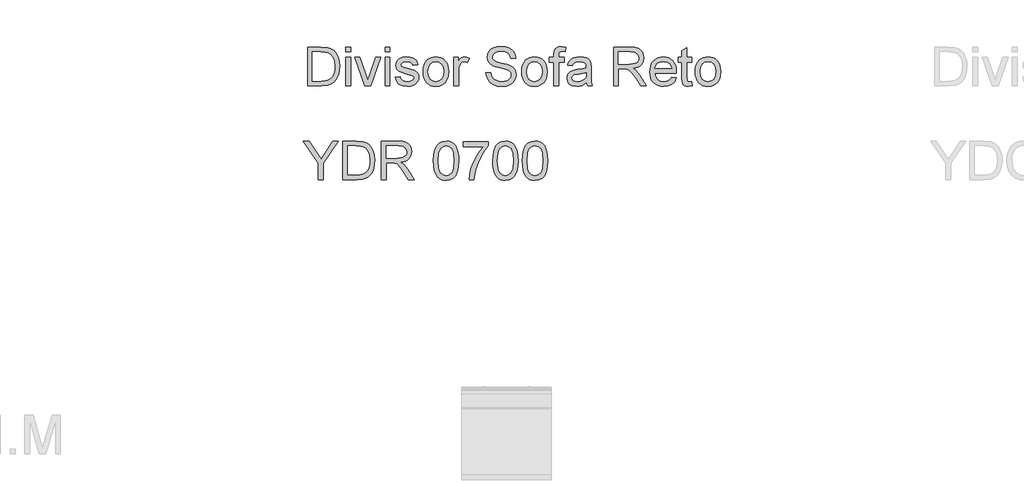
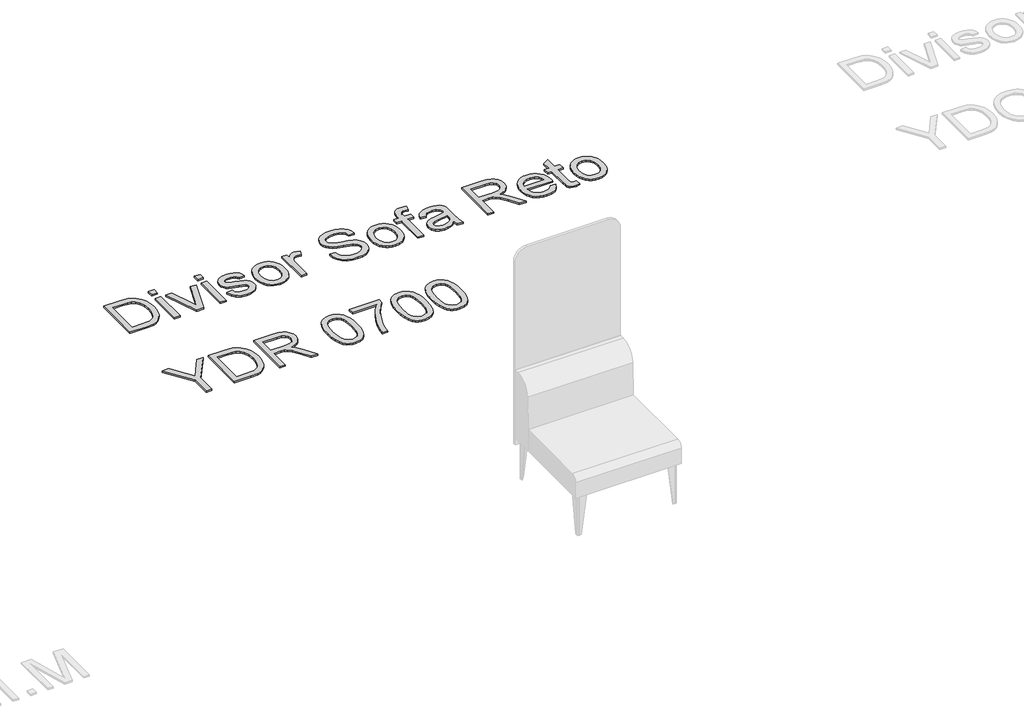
# One storey, part 5 of 26: 1 proxy.
"""IFC4 building model written with IfcOpenShell, lengths in millimetres."""

from ifc_helpers import new_model, si_unit, origin, origin_with_axes, place, context, project, spatial, polyline, outline, extrude, element, save

model = new_model("IFC4")

# Units and contexts
model_context = context("Model", 3, world=origin())
ifc_project = project(units=[si_unit("LENGTHUNIT", "METRE", prefix="MILLI")], contexts=[model_context])

# Site, building, storey
site = spatial("IfcSite", under=ifc_project)
building = spatial("IfcBuilding", under=site)
storey = spatial("IfcBuildingStorey", under=building, Name="Marelli - Linha YOUNG - Planta Baixa", Elevation=0.0)

# Proxy
placement = place(None, origin())
element("IfcBuildingElementProxy", 1, Name="300mm Arial", ObjectType="300mm Arial", at=placement, inside=storey, context=model_context, shape_type="SweptSolid", body=[
    extrude(outline(polyline([(-15696.7547836, -19914.6418665), (-15696.7547836, -19613.2729361), (-15592.7913318, -19613.2729361), (-15539.0069841, -19617.6139436), (-15514.9842898, -19625.983259), (-15494.7139919, -19639.1718285), (-15473.8734769, -19662.127665), (-15459.0294384, -19690.6753079), (-15450.1450882, -19724.262934), (-15447.1836381, -19762.3387205), (-15449.188595, -19794.684745), (-15455.2034656, -19823.1496143), (-15464.3637273, -19847.3838408), (-15475.8048573, -19867.0379364), (-15488.9750328, -19882.5533595), (-15503.3224306, -19894.3715686), (-15519.7943469, -19903.1363571), (-15539.3380779, -19909.4915186), (-15587.7881367, -19914.6418665), (-15696.7547836, -19914.6418665)]), holes=[polyline([(-15659.0836673, -19876.9707502), (-15592.4234498, -19876.9707502), (-15564.8506943, -19875.6095868), (-15543.9366028, -19871.5260967), (-15528.1544653, -19864.9594031), (-15515.9775712, -19856.1486293), (-15502.8901692, -19839.8422599), (-15493.0585229, -19818.7350304), (-15486.9056965, -19792.7349704), (-15484.8547544, -19761.7501093), (-15488.8738652, -19720.6944787), (-15500.9311976, -19690.3810023), (-15518.7458832, -19669.5588813), (-15540.0370537, -19656.9773171), (-15561.7053032, -19652.4523686), (-15593.4535194, -19650.9440524), (-15659.0836673, -19650.9440524), (-15659.0836673, -19876.9707502)])]), origin_with_axes(), (0.0, 0.0, 1.0), 10.0),
    extrude(outline(polyline([(-15400.0947427, -19650.9440524), (-15400.0947427, -19613.2729361), (-15362.4236264, -19613.2729361), (-15362.4236264, -19650.9440524), (-15400.0947427, -19650.9440524)])), origin_with_axes(), (0.0, 0.0, 1.0), 10.0),
    extrude(outline(polyline([(-15400.0947427, -19914.6418665), (-15400.0947427, -19693.3240582), (-15362.4236264, -19693.3240582), (-15362.4236264, -19914.6418665), (-15400.0947427, -19914.6418665)])), origin_with_axes(), (0.0, 0.0, 1.0), 10.0),
    extrude(outline(polyline([(-15251.6175695, -19914.6418665), (-15329.4613997, -19693.3240582), (-15289.5829914, -19693.3240582), (-15242.4205196, -19825.9087293), (-15228.2202746, -19870.4960271), (-15214.3143352, -19828.4103269), (-15166.8575578, -19693.3240582), (-15126.9791495, -19693.3240582), (-15203.8664865, -19914.6418665), (-15251.6175695, -19914.6418665)])), origin_with_axes(), (0.0, 0.0, 1.0), 10.0),
    extrude(outline(polyline([(-15094.0169227, -19914.6418665), (-15094.0169227, -19693.3240582), (-15056.3458064, -19693.3240582), (-15056.3458064, -19914.6418665), (-15094.0169227, -19914.6418665)])), origin_with_axes(), (0.0, 0.0, 1.0), 10.0),
    extrude(outline(polyline([(-15094.0169227, -19650.9440524), (-15094.0169227, -19613.2729361), (-15056.3458064, -19613.2729361), (-15056.3458064, -19650.9440524), (-15094.0169227, -19650.9440524)])), origin_with_axes(), (0.0, 0.0, 1.0), 10.0),
    extrude(outline(polyline([(-15013.9658006, -19848.717413), (-14976.2946843, -19844.0085235), (-14970.3533901, -19860.1217548), (-14958.8570777, -19871.9675551), (-14941.7321708, -19879.2516186), (-14918.905093, -19881.6796398), (-14896.3539267, -19879.4539537), (-14880.4982127, -19872.7768955), (-14871.1172219, -19863.101599), (-14867.9902249, -19851.8811982), (-14871.135616, -19842.2794781), (-14880.5717891, -19834.9586264), (-14919.3465514, -19824.2164721), (-14976.0739551, -19805.7855842), (-14990.43055, -19796.5241549), (-15000.8324134, -19784.2644874), (-15007.1507866, -19769.7883309), (-15009.2569111, -19753.8774346), (-15007.5646539, -19739.2817165), (-15002.4878823, -19725.8080384), (-14994.486449, -19713.9898293), (-14984.0202062, -19704.3605181), (-14960.0710883, -19693.2136936), (-14927.6606845, -19688.6151687), (-14903.1413495, -19690.4637757), (-14881.8225879, -19696.0095968), (-14864.679287, -19704.710006), (-14852.6863339, -19716.0223773), (-14844.7400828, -19730.7836424), (-14839.7368877, -19749.8307327), (-14877.408004, -19754.5396222), (-14882.1628788, -19742.6846249), (-14891.5714608, -19733.7542895), (-14905.7257206, -19728.1532861), (-14924.7176286, -19726.286285), (-14946.3490899, -19728.0705127), (-14960.7700641, -19733.4231957), (-14968.8818621, -19741.1487176), (-14971.5857948, -19750.0514619), (-14967.0976344, -19761.0143453), (-14953.0445422, -19769.3284784), (-14920.5973502, -19777.3483059), (-14865.3046863, -19795.0802181), (-14850.6997711, -19803.5598981), (-14839.6265231, -19815.166575), (-14832.6459622, -19829.9370371), (-14830.3191086, -19847.9080726), (-14833.0506324, -19866.4861134), (-14841.2452039, -19883.9605081), (-14854.5901232, -19898.9608965), (-14872.7726908, -19910.116918), (-14894.735246, -19917.0422966), (-14919.4201278, -19919.3507561), (-14957.4039438, -19914.8993839), (-14985.1238522, -19901.5452675), (-15003.6283165, -19879.4355596), (-15013.9658006, -19848.717413)])), origin_with_axes(), (0.0, 0.0, 1.0), 10.0),
    extrude(outline(polyline([(-14797.3568818, -19803.9829624), (-14795.3197353, -19775.3203564), (-14789.2082956, -19750.621679), (-14779.0225629, -19729.88693), (-14764.7625371, -19713.1161096), (-14750.4059422, -19702.3969479), (-14734.5594253, -19694.7404039), (-14717.2229862, -19690.1464775), (-14698.3966251, -19688.6151687), (-14677.6135917, -19690.4798706), (-14658.8217195, -19696.0739761), (-14642.0210086, -19705.3974855), (-14627.2114591, -19718.4503985), (-14615.1242363, -19734.7912569), (-14606.4905057, -19753.9786022), (-14601.3102673, -19776.0124344), (-14599.5835212, -19800.8927536), (-14602.6369418, -19838.950146), (-14611.7972035, -19867.9208531), (-14626.7975918, -19889.6166938), (-14647.3713924, -19905.8494868), (-14671.8079539, -19915.9754388), (-14698.3966251, -19919.3507561), (-14719.4831612, -19917.492952), (-14738.4497774, -19911.9195398), (-14755.2964735, -19902.6305194), (-14770.0232496, -19889.6258909), (-14781.9817137, -19873.1263834), (-14790.5234738, -19853.3527261), (-14795.6485298, -19830.3049191), (-14797.3568818, -19803.9829624)]), holes=[polyline([(-14759.6857655, -19803.909386), (-14755.3263639, -19838.0028499), (-14742.248159, -19862.2922586), (-14722.5664722, -19876.8327945), (-14698.3966251, -19881.6796398), (-14674.3371426, -19876.8052033), (-14654.6922441, -19862.181894), (-14641.6140392, -19837.5705885), (-14637.2546375, -19802.7321636), (-14641.6416303, -19769.6319811), (-14654.8026087, -19745.6736661), (-14674.4750984, -19731.1331303), (-14698.3966251, -19726.286285), (-14722.5664722, -19731.1147362), (-14742.248159, -19745.6000897), (-14755.3263639, -19769.8343162), (-14759.6857655, -19803.909386)])]), origin_with_axes(), (0.0, 0.0, 1.0), 10.0),
    extrude(outline(polyline([(-14557.2035154, -19914.6418665), (-14557.2035154, -19693.3240582), (-14524.2412886, -19693.3240582), (-14524.2412886, -19726.0655558), (-14512.0643946, -19707.0828449), (-14500.8439937, -19695.8992322), (-14489.5868047, -19690.4361846), (-14477.299546, -19688.6151687), (-14458.5375643, -19691.5214365), (-14439.4812769, -19700.2402397), (-14452.0628412, -19734.0118069), (-14465.306593, -19728.2176655), (-14478.5503448, -19726.286285), (-14489.7983368, -19728.1440891), (-14499.8507123, -19733.7175013), (-14507.9717074, -19742.5834574), (-14513.425558, -19754.318893), (-14518.0056888, -19775.3617432), (-14519.5323991, -19798.3175797), (-14519.5323991, -19914.6418665), (-14557.2035154, -19914.6418665)])), origin_with_axes(), (0.0, 0.0, 1.0), 10.0),
    extrude(outline(polyline([(-14307.6323699, -19811.0462967), (-14269.9612535, -19811.0462967), (-14265.6386401, -19831.9511911), (-14257.8211477, -19848.7542012), (-14245.6258596, -19862.0899235), (-14228.1698589, -19872.5929545), (-14206.8327032, -19879.4079684), (-14182.9939499, -19881.6796398), (-14162.0062821, -19879.9597914), (-14143.6305764, -19874.8002465), (-14128.7405527, -19866.6332662), (-14118.2099305, -19855.8911119), (-14111.9467396, -19843.557868), (-14109.8590092, -19830.6176188), (-14111.4225077, -19818.0084634), (-14116.1130032, -19807.1099593), (-14125.6411468, -19797.8117419), (-14141.71759, -19790.0034466), (-14196.5687955, -19775.6192606), (-14232.5752458, -19766.1003139), (-14255.6138557, -19757.0412198), (-14274.3666404, -19744.3676851), (-14287.6563775, -19729.0086118), (-14295.5750375, -19711.2950937), (-14298.2145908, -19691.5582247), (-14294.9496381, -19669.494502), (-14285.15478, -19648.9207014), (-14269.0875338, -19631.4830948), (-14247.0054171, -19618.8279542), (-14220.4995193, -19611.1300235), (-14191.1609302, -19608.5640465), (-14159.3759258, -19611.2495851), (-14131.564047, -19619.3062008), (-14108.7185751, -19632.5683467), (-14091.8327915, -19650.870476), (-14081.1458195, -19673.0721544), (-14076.8967825, -19698.0329478), (-14114.5678988, -19698.0329478), (-14121.4840803, -19675.5553579), (-14135.9050545, -19659.3317619), (-14158.4378267, -19649.5093126), (-14189.6894022, -19646.2351629), (-14221.6767417, -19649.4725244), (-14243.6209027, -19659.1846091), (-14256.3128315, -19673.4768246), (-14260.5434745, -19690.4545787), (-14257.5452362, -19704.9307352), (-14248.5505214, -19716.5742003), (-14227.2869421, -19726.9852608), (-14187.0406518, -19737.6170505), (-14145.5067746, -19747.7154112), (-14120.3804343, -19756.526185), (-14098.9053228, -19770.1930011), (-14083.9233286, -19787.0603906), (-14075.1217519, -19806.9444124), (-14072.1878929, -19829.6611256), (-14075.5632102, -19852.8836766), (-14085.6891622, -19874.7266701), (-14102.1518814, -19893.52544), (-14124.5375009, -19907.6153204), (-14151.4572659, -19916.4168972), (-14181.5224219, -19919.3507561), (-14218.4301831, -19916.1869709), (-14248.8080388, -19906.6956154), (-14273.0054771, -19890.8399014), (-14291.3719857, -19868.5830407), (-14303.1626036, -19841.4701377), (-14307.6323699, -19811.0462967)])), origin_with_axes(), (0.0, 0.0, 1.0), 10.0),
    extrude(outline(polyline([(-14029.8078871, -19803.9829624), (-14027.7707405, -19775.3203564), (-14021.6593009, -19750.621679), (-14011.4735682, -19729.88693), (-13997.2135423, -19713.1161096), (-13982.8569475, -19702.3969479), (-13967.0104305, -19694.7404039), (-13949.6739915, -19690.1464775), (-13930.8476304, -19688.6151687), (-13910.0645969, -19690.4798706), (-13891.2727248, -19696.0739761), (-13874.4720139, -19705.3974855), (-13859.6624643, -19718.4503985), (-13847.5752415, -19734.7912569), (-13838.941511, -19753.9786022), (-13833.7612726, -19776.0124344), (-13832.0345265, -19800.8927536), (-13835.0879471, -19838.950146), (-13844.2482087, -19867.9208531), (-13859.2485971, -19889.6166938), (-13879.8223977, -19905.8494868), (-13904.2589592, -19915.9754388), (-13930.8476304, -19919.3507561), (-13951.9341665, -19917.492952), (-13970.9007826, -19911.9195398), (-13987.7474787, -19902.6305194), (-14002.4742549, -19889.6258909), (-14014.432719, -19873.1263834), (-14022.974479, -19853.3527261), (-14028.0995351, -19830.3049191), (-14029.8078871, -19803.9829624)]), holes=[polyline([(-13992.1367708, -19803.909386), (-13987.7773691, -19838.0028499), (-13974.6991642, -19862.2922586), (-13955.0174775, -19876.8327945), (-13930.8476304, -19881.6796398), (-13906.7881479, -19876.8052033), (-13887.1432494, -19862.181894), (-13874.0650444, -19837.5705885), (-13869.7056428, -19802.7321636), (-13874.0926356, -19769.6319811), (-13887.253614, -19745.6736661), (-13906.9261037, -19731.1331303), (-13930.8476304, -19726.286285), (-13955.0174775, -19731.1147362), (-13974.6991642, -19745.6000897), (-13987.7773691, -19769.8343162), (-13992.1367708, -19803.909386)])]), origin_with_axes(), (0.0, 0.0, 1.0), 10.0),
    extrude(outline(polyline([(-13780.2367416, -19914.6418665), (-13780.2367416, -19730.9951745), (-13813.1989683, -19730.9951745), (-13813.1989683, -19693.3240582), (-13780.2367416, -19693.3240582), (-13780.2367416, -19671.0304093), (-13776.263616, -19639.6132869), (-13768.6852469, -19627.086905), (-13756.9865995, -19617.1724852), (-13740.6158507, -19610.7161562), (-13719.0211776, -19608.5640465), (-13684.6609992, -19612.6843249), (-13690.1792292, -19648.0009964), (-13711.8842669, -19646.2351629), (-13726.2040735, -19647.7986613), (-13735.6126556, -19652.4891568), (-13740.8273828, -19661.4470834), (-13742.5656253, -19675.8128753), (-13742.5656253, -19693.3240582), (-13700.1856194, -19693.3240582), (-13700.1856194, -19730.9951745), (-13742.5656253, -19730.9951745), (-13742.5656253, -19914.6418665), (-13780.2367416, -19914.6418665)])), origin_with_axes(), (0.0, 0.0, 1.0), 10.0),
    extrude(outline(polyline([(-13525.9567065, -19886.3885293), (-13543.9553331, -19901.821179), (-13562.4873886, -19911.9195398), (-13581.9759373, -19917.492952), (-13602.8440435, -19919.3507561), (-13634.3255452, -19914.8809898), (-13657.5480962, -19901.4716911), (-13671.8679028, -19881.1094227), (-13676.6411717, -19855.7807473), (-13674.83855, -19840.1641566), (-13669.4306846, -19825.9823057), (-13661.0889604, -19813.8421999), (-13650.4847619, -19804.3508444), (-13624.1076228, -19791.9900093), (-13591.513278, -19786.3246266), (-13552.9960331, -19780.3649383), (-13526.1774357, -19773.3751804), (-13525.9567065, -19764.9874709), (-13528.5502746, -19748.1752637), (-13536.3309788, -19737.1755921), (-13553.7317971, -19729.0086118), (-13577.9752206, -19726.286285), (-13600.4160223, -19728.0981038), (-13616.0877953, -19733.5335603), (-13626.7747673, -19743.5859358), (-13634.2611659, -19759.2485118), (-13671.9322822, -19754.5396222), (-13665.3931797, -19733.9382305), (-13655.6351098, -19717.7514227), (-13641.7475645, -19705.3721936), (-13622.8200358, -19696.1935378), (-13599.6710613, -19690.509761), (-13573.1191783, -19688.6151687), (-13547.6525472, -19690.2890318), (-13527.4650227, -19695.310621), (-13512.2439051, -19702.861399), (-13501.6764948, -19712.1228282), (-13494.6683428, -19723.5731553), (-13490.1250002, -19737.6906269), (-13488.2855902, -19770.6528536), (-13488.2855902, -19817.5210198), (-13486.3726038, -19882.9672267), (-13478.8678111, -19914.6418665), (-13516.5389274, -19914.6418665), (-13525.9567065, -19886.3885293)]), holes=[polyline([(-13525.9567065, -19811.0462967), (-13586.7308121, -19822.5977913), (-13619.1412159, -19828.7046325), (-13633.8197075, -19838.6374463), (-13638.9700554, -19853.1319969), (-13636.1649552, -19864.3340037), (-13627.7496546, -19873.5126595), (-13613.9080945, -19879.6378947), (-13594.824216, -19881.6796398), (-13574.5907063, -19879.4263625), (-13556.7116413, -19872.6665309), (-13542.2170907, -19862.7061259), (-13532.137124, -19850.8511286), (-13527.6673578, -19838.6374463), (-13526.1774357, -19821.7148746), (-13525.9567065, -19811.0462967)])]), origin_with_axes(), (0.0, 0.0, 1.0), 10.0),
    extrude(outline(polyline([(-13314.0566773, -19914.6418665), (-13314.0566773, -19613.2729361), (-13184.194333, -19613.2729361), (-13149.2915287, -19615.3054841), (-13123.898474, -19621.4031282), (-13105.3388273, -19632.6603172), (-13090.9362472, -19650.1715002), (-13081.6932121, -19671.885735), (-13078.6122004, -19695.7520794), (-13083.7165631, -19725.4401564), (-13099.0296511, -19750.0514619), (-13110.6294303, -19760.0808448), (-13125.011317, -19768.0960738), (-13162.1214133, -19778.0840699), (-13140.7106812, -19794.1973013), (-13110.1764756, -19832.9720636), (-13059.923795, -19914.6418665), (-13103.7017524, -19914.6418665), (-13142.9179731, -19852.1755038), (-13171.2448868, -19810.8255675), (-13191.1473027, -19791.2910335), (-13209.0631559, -19784.1173346), (-13230.9153464, -19782.7929595), (-13276.385561, -19782.7929595), (-13276.385561, -19914.6418665), (-13314.0566773, -19914.6418665)]), holes=[polyline([(-13276.385561, -19745.1218432), (-13192.0670077, -19745.1218432), (-13167.8511753, -19743.7882709), (-13149.0616024, -19739.7875542), (-13134.9165397, -19732.8529786), (-13124.634238, -19722.7178296), (-13118.371047, -19710.4581622), (-13116.2833167, -19697.150031), (-13120.2656393, -19678.7743253), (-13132.2126071, -19663.967075), (-13152.7680135, -19654.199808), (-13182.5756522, -19650.9440524), (-13276.385561, -19650.9440524), (-13276.385561, -19745.1218432)])]), origin_with_axes(), (0.0, 0.0, 1.0), 10.0),
    extrude(outline(polyline([(-12862.44474, -19848.717413), (-12825.5093877, -19853.4263025), (-12838.8175189, -19881.2565755), (-12860.053507, -19902.0603023), (-12888.7391056, -19915.0281426), (-12924.396068, -19919.3507561), (-12947.7703703, -19917.4860542), (-12968.5970897, -19911.8919486), (-12986.8762263, -19902.5684393), (-13002.6077802, -19889.5155263), (-13015.2583223, -19873.096493), (-13024.2944238, -19853.6746229), (-13029.7160847, -19831.249916), (-13031.523305, -19805.8223724), (-13029.6976906, -19779.5326053), (-13024.2208474, -19756.3606381), (-13015.0927754, -19736.3064708), (-13002.3134746, -19719.3701035), (-12986.6233075, -19705.9148195), (-12968.7626366, -19696.3039024), (-12948.731462, -19690.5373521), (-12926.5297836, -19688.6151687), (-12905.0431758, -19690.5327536), (-12885.6121086, -19696.2855083), (-12868.2365822, -19705.8734328), (-12852.9165963, -19719.2965271), (-12840.4109078, -19736.1961062), (-12831.4782731, -19756.2134853), (-12826.1186922, -19779.3486643), (-12824.3321653, -19805.6016432), (-12824.5528945, -19815.7551862), (-12993.8521887, -19815.7551862), (-12987.3314803, -19843.9533412), (-12972.1839392, -19864.6834916), (-12950.3225516, -19877.4306027), (-12923.660304, -19881.6796398), (-12903.6107353, -19879.7114711), (-12886.7249517, -19873.8069651), (-12873.0029533, -19863.5982397), (-12862.44474, -19848.717413)]), holes=[polyline([(-12993.8521887, -19778.0840699), (-12862.0032816, -19778.0840699), (-12867.0984472, -19758.181654), (-12877.0864434, -19743.9446208), (-12899.0489985, -19730.7008689), (-12926.6769364, -19726.286285), (-12952.0699911, -19729.8087551), (-12973.066856, -19740.3761654), (-12987.6625741, -19756.8480818), (-12993.8521887, -19778.0840699)])]), origin_with_axes(), (0.0, 0.0, 1.0), 10.0),
    extrude(outline(polyline([(-12706.6099268, -19883.2247441), (-12701.9010373, -19915.7455125), (-12730.0807981, -19919.3507561), (-12748.1621982, -19917.7872576), (-12761.6450733, -19913.0967622), (-12771.173217, -19905.8678809), (-12777.3904227, -19896.6892252), (-12780.8117253, -19880.9254817), (-12781.9521595, -19853.9413373), (-12781.9521595, -19730.9951745), (-12810.2054967, -19730.9951745), (-12810.2054967, -19693.3240582), (-12781.9521595, -19693.3240582), (-12781.9521595, -19639.5397105), (-12744.2810432, -19617.3932144), (-12744.2810432, -19693.3240582), (-12706.6099268, -19693.3240582), (-12706.6099268, -19730.9951745), (-12744.2810432, -19730.9951745), (-12744.2810432, -19852.8376913), (-12742.2944804, -19872.2618607), (-12735.8565455, -19879.141254), (-12723.0174638, -19881.6796398), (-12706.6099268, -19883.2247441)])), origin_with_axes(), (0.0, 0.0, 1.0), 10.0),
    extrude(outline(polyline([(-12678.3565896, -19803.9829624), (-12676.3194431, -19775.3203564), (-12670.2080034, -19750.621679), (-12660.0222707, -19729.88693), (-12645.7622448, -19713.1161096), (-12631.40565, -19702.3969479), (-12615.559133, -19694.7404039), (-12598.222694, -19690.1464775), (-12579.3963329, -19688.6151687), (-12558.6132994, -19690.4798706), (-12539.8214273, -19696.0739761), (-12523.0207164, -19705.3974855), (-12508.2111668, -19718.4503985), (-12496.123944, -19734.7912569), (-12487.4902135, -19753.9786022), (-12482.3099751, -19776.0124344), (-12480.583229, -19800.8927536), (-12483.6366496, -19838.950146), (-12492.7969112, -19867.9208531), (-12507.7972996, -19889.6166938), (-12528.3711002, -19905.8494868), (-12552.8076617, -19915.9754388), (-12579.3963329, -19919.3507561), (-12600.482869, -19917.492952), (-12619.4494851, -19911.9195398), (-12636.2961813, -19902.6305194), (-12651.0229574, -19889.6258909), (-12662.9814215, -19873.1263834), (-12671.5231816, -19853.3527261), (-12676.6482376, -19830.3049191), (-12678.3565896, -19803.9829624)]), holes=[polyline([(-12640.6854733, -19803.909386), (-12636.3260717, -19838.0028499), (-12623.2478667, -19862.2922586), (-12603.56618, -19876.8327945), (-12579.3963329, -19881.6796398), (-12555.3368504, -19876.8052033), (-12535.6919519, -19862.181894), (-12522.613747, -19837.5705885), (-12518.2543453, -19802.7321636), (-12522.6413381, -19769.6319811), (-12535.8023165, -19745.6736661), (-12555.4748062, -19731.1331303), (-12579.3963329, -19726.286285), (-12603.56618, -19731.1147362), (-12623.2478667, -19745.6000897), (-12636.3260717, -19769.8343162), (-12640.6854733, -19803.909386)])]), origin_with_axes(), (0.0, 0.0, 1.0), 10.0),
    extrude(outline(polyline([(-15611.994772, -20646.4907736), (-15611.994772, -20518.8357213), (-15729.7170104, -20345.1218432), (-15685.2768654, -20345.1218432), (-15622.4426206, -20437.9016823), (-15590.2897342, -20485.2113069), (-15558.0632715, -20434.517168), (-15501.0415622, -20345.1218432), (-15456.6014172, -20345.1218432), (-15574.3236556, -20518.8357213), (-15574.3236556, -20646.4907736), (-15611.994772, -20646.4907736)])), origin_with_axes(), (0.0, 0.0, 1.0), 10.0),
    extrude(outline(polyline([(-15423.6391904, -20646.4907736), (-15423.6391904, -20345.1218432), (-15319.6757386, -20345.1218432), (-15265.8913909, -20349.4628507), (-15241.8686966, -20357.8321661), (-15221.5983987, -20371.0207356), (-15200.7578836, -20393.9765721), (-15185.9138451, -20422.5242149), (-15177.029495, -20456.1118411), (-15174.0680449, -20494.1876276), (-15176.0730018, -20526.533652), (-15182.0878724, -20554.9985214), (-15191.2481341, -20579.2327478), (-15202.6892641, -20598.8868434), (-15215.8594395, -20614.4022666), (-15230.2068374, -20626.2204757), (-15246.6787537, -20634.9852642), (-15266.2224847, -20641.3404257), (-15314.6725435, -20646.4907736), (-15423.6391904, -20646.4907736)]), holes=[polyline([(-15385.9680741, -20608.8196573), (-15319.3078566, -20608.8196573), (-15291.7351011, -20607.4584939), (-15270.8210096, -20603.3750038), (-15255.038872, -20596.8083102), (-15242.861978, -20587.9975364), (-15229.774576, -20571.6911669), (-15219.9429297, -20550.5839375), (-15213.7901033, -20524.5838775), (-15211.7391612, -20493.5990164), (-15215.758272, -20452.5433857), (-15227.8156044, -20422.2299093), (-15245.63029, -20401.4077884), (-15266.9214605, -20388.8262242), (-15288.58971, -20384.3012756), (-15320.3379262, -20382.7929595), (-15385.9680741, -20382.7929595), (-15385.9680741, -20608.8196573)])]), origin_with_axes(), (0.0, 0.0, 1.0), 10.0),
    extrude(outline(polyline([(-15122.27026, -20646.4907736), (-15122.27026, -20345.1218432), (-14992.4079157, -20345.1218432), (-14957.5051114, -20347.1543912), (-14932.1120567, -20353.2520352), (-14913.55241, -20364.5092243), (-14899.1498299, -20382.0204073), (-14889.9067948, -20403.734642), (-14886.8257831, -20427.6009865), (-14891.9301457, -20457.2890635), (-14907.2432338, -20481.900369), (-14918.843013, -20491.9297519), (-14933.2248997, -20499.9449808), (-14970.334996, -20509.932977), (-14948.9242638, -20526.0462084), (-14918.3900582, -20564.8209707), (-14868.1373777, -20646.4907736), (-14911.9153351, -20646.4907736), (-14951.1315558, -20584.0244108), (-14979.4584694, -20542.6744746), (-14999.3608854, -20523.1399406), (-15017.2767386, -20515.9662417), (-15039.1289291, -20514.6418665), (-15084.5991437, -20514.6418665), (-15084.5991437, -20646.4907736), (-15122.27026, -20646.4907736)]), holes=[polyline([(-15084.5991437, -20476.9707502), (-15000.2805904, -20476.9707502), (-14976.064758, -20475.637178), (-14957.2751851, -20471.6364613), (-14943.1301224, -20464.7018857), (-14932.8478207, -20454.5667367), (-14926.5846297, -20442.3070692), (-14924.4968994, -20428.9989381), (-14928.479222, -20410.6232324), (-14940.4261898, -20395.8159821), (-14960.9815962, -20386.0487151), (-14990.7892349, -20382.7929595), (-15084.5991437, -20382.7929595), (-15084.5991437, -20476.9707502)])]), origin_with_axes(), (0.0, 0.0, 1.0), 10.0),
    extrude(outline(polyline([(-14717.3057597, -20498.2343295), (-14714.5374477, -20449.9958029), (-14706.2325116, -20411.5245433), (-14692.473725, -20382.2319394), (-14673.3438613, -20361.5293801), (-14648.7049646, -20349.2237274), (-14618.4190794, -20345.1218432), (-14595.2057255, -20347.5498643), (-14574.4203928, -20354.8339278), (-14557.0379685, -20366.6889251), (-14544.03334, -20382.8297477), (-14534.2108907, -20403.1184397), (-14526.3750042, -20427.4170455), (-14521.2430504, -20458.2731478), (-14519.5323991, -20498.2343295), (-14522.2731199, -20546.1969447), (-14530.4952825, -20584.5762338), (-14544.1712957, -20613.8964288), (-14563.2735683, -20634.6817616), (-14587.9676472, -20647.0701877), (-14618.4190794, -20651.1996631), (-14639.1676239, -20649.4062384), (-14657.5617237, -20644.0259642), (-14673.6013787, -20635.0588406), (-14687.2865889, -20622.5048675), (-14700.4199761, -20599.8111469), (-14709.800967, -20571.5348171), (-14715.4295615, -20537.675878), (-14717.3057597, -20498.2343295)]), holes=[polyline([(-14679.6346434, -20498.1607531), (-14675.2200594, -20557.4173455), (-14669.7018295, -20577.6853442), (-14661.9763076, -20591.7131445), (-14642.2578327, -20608.0746963), (-14618.4190794, -20613.5285468), (-14594.5803261, -20608.0563022), (-14574.8618512, -20591.6395681), (-14567.1363293, -20577.5887752), (-14561.6180993, -20557.325375), (-14557.2035154, -20498.1607531), (-14561.4709465, -20440.237733), (-14566.8052355, -20420.0364129), (-14574.27324, -20405.6752196), (-14593.9549267, -20388.5135245), (-14618.8605378, -20382.7929595), (-14642.4417737, -20387.8329428), (-14661.3876964, -20402.9528928), (-14669.3707357, -20418.5878776), (-14675.0729066, -20439.6675159), (-14679.6346434, -20498.1607531)])]), origin_with_axes(), (0.0, 0.0, 1.0), 10.0),
    extrude(outline(polyline([(-14486.5701723, -20387.501849), (-14486.5701723, -20349.8307327), (-14288.7968117, -20349.8307327), (-14288.7968117, -20380.2913619), (-14316.9857696, -20415.9667184), (-14344.898816, -20461.3357654), (-14369.5193185, -20512.2598306), (-14387.8306448, -20564.6002415), (-14396.8069655, -20603.7612799), (-14401.8101606, -20646.4907736), (-14439.4812769, -20646.4907736), (-14435.4069838, -20607.660829), (-14424.5084797, -20561.5100327), (-14407.0800702, -20512.5909244), (-14383.4160609, -20465.4560438), (-14355.788123, -20422.8461117), (-14326.467928, -20387.501849), (-14486.5701723, -20387.501849)])), origin_with_axes(), (0.0, 0.0, 1.0), 10.0),
    extrude(outline(polyline([(-14255.8345849, -20498.2343295), (-14253.0662729, -20449.9958029), (-14244.7613369, -20411.5245433), (-14231.0025503, -20382.2319394), (-14211.8726865, -20361.5293801), (-14187.2337899, -20349.2237274), (-14156.9479046, -20345.1218432), (-14133.7345507, -20347.5498643), (-14112.949218, -20354.8339278), (-14095.5667937, -20366.6889251), (-14082.5621652, -20382.8297477), (-14072.7397159, -20403.1184397), (-14064.9038294, -20427.4170455), (-14059.7718756, -20458.2731478), (-14058.0612243, -20498.2343295), (-14060.8019452, -20546.1969447), (-14069.0241078, -20584.5762338), (-14082.700121, -20613.8964288), (-14101.8023936, -20634.6817616), (-14126.4964725, -20647.0701877), (-14156.9479046, -20651.1996631), (-14177.6964492, -20649.4062384), (-14196.0905489, -20644.0259642), (-14212.1302039, -20635.0588406), (-14225.8154141, -20622.5048675), (-14238.9488014, -20599.8111469), (-14248.3297922, -20571.5348171), (-14253.9583868, -20537.675878), (-14255.8345849, -20498.2343295)]), holes=[polyline([(-14218.1634686, -20498.1607531), (-14213.7488847, -20557.4173455), (-14208.2306548, -20577.6853442), (-14200.5051329, -20591.7131445), (-14180.7866579, -20608.0746963), (-14156.9479046, -20613.5285468), (-14133.1091513, -20608.0563022), (-14113.3906764, -20591.6395681), (-14105.6651545, -20577.5887752), (-14100.1469246, -20557.325375), (-14095.7323406, -20498.1607531), (-14099.9997718, -20440.237733), (-14105.3340607, -20420.0364129), (-14112.8020652, -20405.6752196), (-14132.483752, -20388.5135245), (-14157.389363, -20382.7929595), (-14180.9705989, -20387.8329428), (-14199.9165217, -20402.9528928), (-14207.899561, -20418.5878776), (-14213.6017319, -20439.6675159), (-14218.1634686, -20498.1607531)])]), origin_with_axes(), (0.0, 0.0, 1.0), 10.0),
    extrude(outline(polyline([(-14025.0989976, -20498.2343295), (-14022.3306855, -20449.9958029), (-14014.0257495, -20411.5245433), (-14000.2669629, -20382.2319394), (-13981.1370991, -20361.5293801), (-13956.4982025, -20349.2237274), (-13926.2123173, -20345.1218432), (-13902.9989634, -20347.5498643), (-13882.2136306, -20354.8339278), (-13864.8312064, -20366.6889251), (-13851.8265778, -20382.8297477), (-13842.0041286, -20403.1184397), (-13834.1682421, -20427.4170455), (-13829.0362882, -20458.2731478), (-13827.325637, -20498.2343295), (-13830.0663578, -20546.1969447), (-13838.2885204, -20584.5762338), (-13851.9645336, -20613.8964288), (-13871.0668062, -20634.6817616), (-13895.7608851, -20647.0701877), (-13926.2123173, -20651.1996631), (-13946.9608618, -20649.4062384), (-13965.3549615, -20644.0259642), (-13981.3946165, -20635.0588406), (-13995.0798268, -20622.5048675), (-14008.213214, -20599.8111469), (-14017.5942049, -20571.5348171), (-14023.2227994, -20537.675878), (-14025.0989976, -20498.2343295)]), holes=[polyline([(-13987.4278813, -20498.1607531), (-13983.0132973, -20557.4173455), (-13977.4950674, -20577.6853442), (-13969.7695455, -20591.7131445), (-13950.0510705, -20608.0746963), (-13926.2123173, -20613.5285468), (-13902.373564, -20608.0563022), (-13882.655089, -20591.6395681), (-13874.9295671, -20577.5887752), (-13869.4113372, -20557.325375), (-13864.9967533, -20498.1607531), (-13869.2641844, -20440.237733), (-13874.5984733, -20420.0364129), (-13882.0664778, -20405.6752196), (-13901.7481646, -20388.5135245), (-13926.6537757, -20382.7929595), (-13950.2350115, -20387.8329428), (-13969.1809343, -20402.9528928), (-13977.1639736, -20418.5878776), (-13982.8661445, -20439.6675159), (-13987.4278813, -20498.1607531)])]), origin_with_axes(), (0.0, 0.0, 1.0), 10.0),
])

save(model, "model.ifc")
